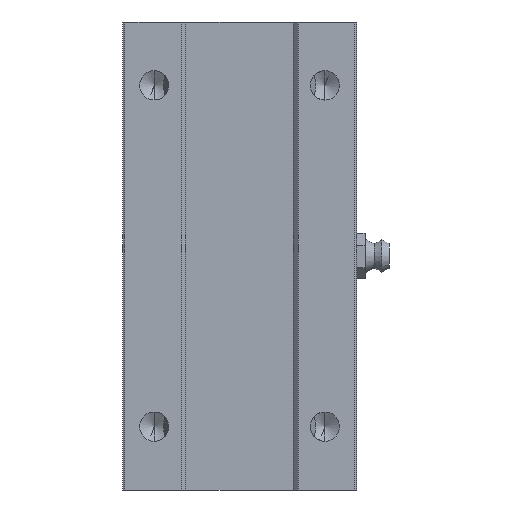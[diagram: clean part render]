
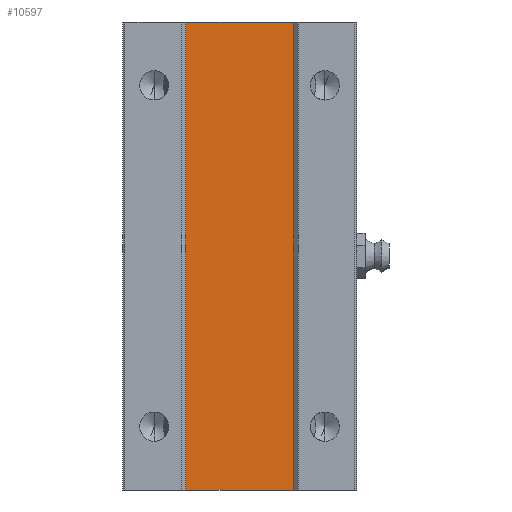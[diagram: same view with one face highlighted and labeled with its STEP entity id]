
A CAD part, front view. The second image highlights one B-rep face of the part: STEP entity #10597.
In plain terms, the highlighted planar face has unit normal (0, -1, 0).
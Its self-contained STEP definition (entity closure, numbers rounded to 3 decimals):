
#959 = ORIENTED_EDGE ( 'NONE', *, *, #22302, .F. ) ;
#1658 = PLANE ( 'NONE',  #17373 ) ;
#1853 = CARTESIAN_POINT ( 'NONE',  ( -11., -19.557, 0. ) ) ;
#2206 = CARTESIAN_POINT ( 'NONE',  ( -11., -19.557, 96. ) ) ;
#2378 = CARTESIAN_POINT ( 'NONE',  ( 11., -19.557, 96. ) ) ;
#3305 = ORIENTED_EDGE ( 'NONE', *, *, #20719, .T. ) ;
#3802 = LINE ( 'NONE', #15273, #13705 ) ;
#4122 = DIRECTION ( 'NONE',  ( 1., 0., 0. ) ) ;
#7242 = DIRECTION ( 'NONE',  ( 0., 1., 0. ) ) ;
#7471 = CARTESIAN_POINT ( 'NONE',  ( -11., -19.557, 0. ) ) ;
#7489 = VERTEX_POINT ( 'NONE', #1853 ) ;
#7714 = DIRECTION ( 'NONE',  ( 1., 0., 0. ) ) ;
#7862 = VECTOR ( 'NONE', #22177, 1000. ) ;
#7924 = VERTEX_POINT ( 'NONE', #2378 ) ;
#9104 = CARTESIAN_POINT ( 'NONE',  ( 11., -19.557, 96. ) ) ;
#9641 = ORIENTED_EDGE ( 'NONE', *, *, #17214, .F. ) ;
#10597 = ADVANCED_FACE ( 'NONE', ( #16506 ), #1658, .F. ) ;
#10913 = CARTESIAN_POINT ( 'NONE',  ( -11., -19.557, 96. ) ) ;
#12362 = LINE ( 'NONE', #10913, #22351 ) ;
#13381 = EDGE_LOOP ( 'NONE', ( #22260, #9641, #959, #3305 ) ) ;
#13705 = VECTOR ( 'NONE', #4122, 1000. ) ;
#15273 = CARTESIAN_POINT ( 'NONE',  ( -11., -19.557, 96. ) ) ;
#16506 = FACE_OUTER_BOUND ( 'NONE', #13381, .T. ) ;
#17214 = EDGE_CURVE ( 'NONE', #7924, #22643, #22262, .T. ) ;
#17373 = AXIS2_PLACEMENT_3D ( 'NONE', #18448, #7242, #20386 ) ;
#18053 = LINE ( 'NONE', #7471, #18664 ) ;
#18448 = CARTESIAN_POINT ( 'NONE',  ( -11., -19.557, 96. ) ) ;
#18664 = VECTOR ( 'NONE', #7714, 1000. ) ;
#20146 = VERTEX_POINT ( 'NONE', #2206 ) ;
#20386 = DIRECTION ( 'NONE',  ( -1., 0., 0. ) ) ;
#20719 = EDGE_CURVE ( 'NONE', #20146, #7489, #12362, .T. ) ;
#22177 = DIRECTION ( 'NONE',  ( 0., 0., -1. ) ) ;
#22260 = ORIENTED_EDGE ( 'NONE', *, *, #22747, .T. ) ;
#22262 = LINE ( 'NONE', #9104, #7862 ) ;
#22302 = EDGE_CURVE ( 'NONE', #20146, #7924, #3802, .T. ) ;
#22351 = VECTOR ( 'NONE', #24008, 1000. ) ;
#22643 = VERTEX_POINT ( 'NONE', #23951 ) ;
#22747 = EDGE_CURVE ( 'NONE', #7489, #22643, #18053, .T. ) ;
#23951 = CARTESIAN_POINT ( 'NONE',  ( 11., -19.557, 0. ) ) ;
#24008 = DIRECTION ( 'NONE',  ( 0., 0., -1. ) ) ;
